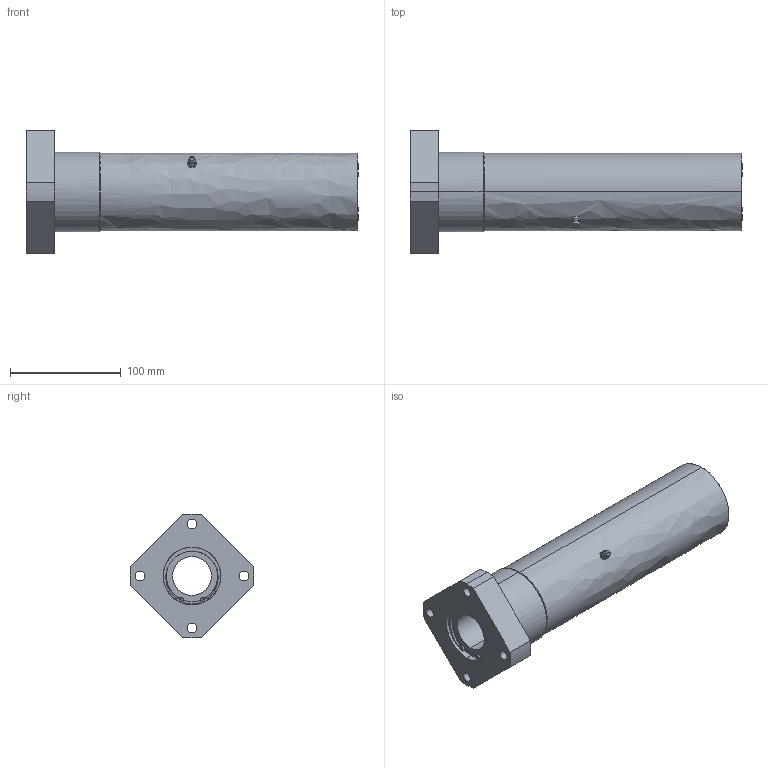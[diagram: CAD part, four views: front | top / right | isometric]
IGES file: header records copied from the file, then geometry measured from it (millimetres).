
Global section: file name: No Iges File Name specified; native system: AutoDesk Inventor R10; preprocessor: AutoDesk Inventor Iges Exporter R10; author: No Author specified; organization: No Organization specified; date: 20101214.140908; units: millimetre
Bounding box: 300 x 111.86 x 112 mm (x, y, z)
Surface area: 129067.5 mm2 (no closed solid volume)
Topology: 0 solids, 0 shells, 159 faces, 1109 edges, 1107 vertices
Faces by surface type: bspline 159
